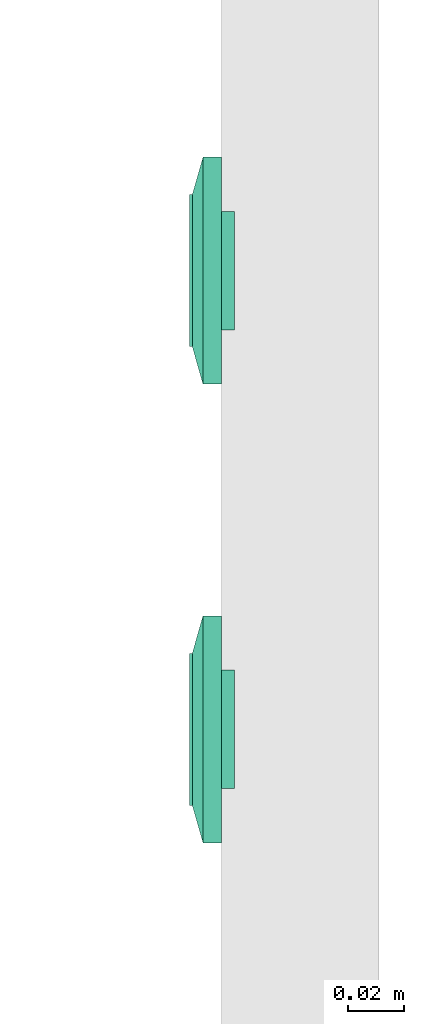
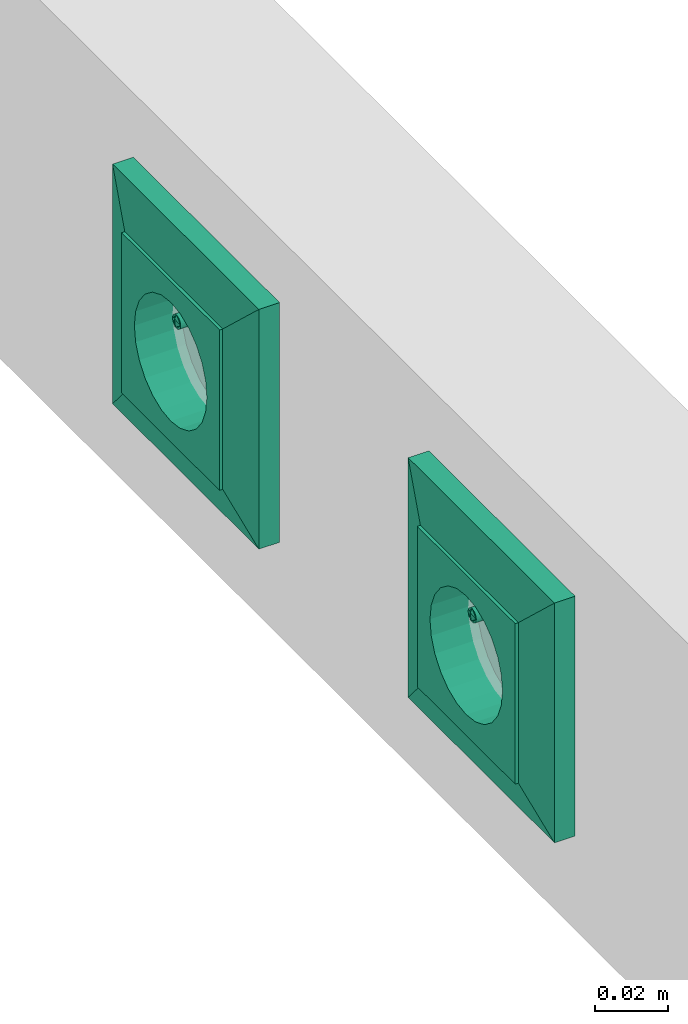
# One storey, part 65 of 166: 2 flow terminals.
"""IFC2X3 building model written with IfcOpenShell, lengths in metres."""

from ifc_helpers import new_model, entity, si_unit, converted_unit, derived_unit, direction, frame, origin, place, context, subcontext, project, spatial, face_set, surface_model, source, transform, mapped, type_object, type_shapes, element, save


model = new_model("IFC2X3")

# Units and contexts
model_context = context("Model", 3, precision=1e-05, world=origin(), true_north=direction((6.12303176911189e-17, 1.0)))
body_context = subcontext(model_context, "Body", "Model", "MODEL_VIEW")
ifc_project = project(units=[si_unit("LENGTHUNIT", "METRE"), si_unit("AREAUNIT", "SQUARE_METRE"), si_unit("VOLUMEUNIT", "CUBIC_METRE"), converted_unit("PLANEANGLEUNIT", "DEGREE", entity("IfcRatioMeasure", 0.0174532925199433), si_unit("PLANEANGLEUNIT", "RADIAN"), dimensions=[0, 0, 0, 0, 0, 0, 0]), si_unit("MASSUNIT", "GRAM", prefix="KILO"), derived_unit("MASSDENSITYUNIT", [(si_unit("MASSUNIT", "GRAM", prefix="KILO"), 1), (si_unit("LENGTHUNIT", "METRE"), -3)]), si_unit("TIMEUNIT", "SECOND"), si_unit("FREQUENCYUNIT", "HERTZ"), si_unit("THERMODYNAMICTEMPERATUREUNIT", "DEGREE_CELSIUS"), derived_unit("THERMALTRANSMITTANCEUNIT", [(si_unit("MASSUNIT", "GRAM", prefix="KILO"), 1), (si_unit("THERMODYNAMICTEMPERATUREUNIT", "KELVIN"), -1), (si_unit("TIMEUNIT", "SECOND"), -3)]), derived_unit("VOLUMETRICFLOWRATEUNIT", [(si_unit("LENGTHUNIT", "METRE"), 3), (si_unit("TIMEUNIT", "SECOND"), -1)]), si_unit("ELECTRICCURRENTUNIT", "AMPERE"), si_unit("ELECTRICVOLTAGEUNIT", "VOLT"), si_unit("POWERUNIT", "WATT"), si_unit("FORCEUNIT", "NEWTON"), si_unit("ILLUMINANCEUNIT", "LUX"), si_unit("LUMINOUSFLUXUNIT", "LUMEN"), si_unit("LUMINOUSINTENSITYUNIT", "CANDELA"), derived_unit("USERDEFINED", [(si_unit("MASSUNIT", "GRAM", prefix="KILO"), -1), (si_unit("LENGTHUNIT", "METRE"), -2), (si_unit("TIMEUNIT", "SECOND"), 3), (si_unit("LUMINOUSFLUXUNIT", "LUMEN"), 1)]), derived_unit("LINEARVELOCITYUNIT", [(si_unit("LENGTHUNIT", "METRE"), 1), (si_unit("TIMEUNIT", "SECOND"), -1)]), si_unit("PRESSUREUNIT", "PASCAL"), derived_unit("USERDEFINED", [(si_unit("LENGTHUNIT", "METRE"), -2), (si_unit("MASSUNIT", "GRAM", prefix="KILO"), 1), (si_unit("TIMEUNIT", "SECOND"), -2)])], contexts=[model_context])

# Site, building, storey
site_placement = place(None, origin())
site = spatial("IfcSite", under=ifc_project, at=site_placement, Name="Default", CompositionType="ELEMENT")
building_placement = place(site_placement, origin())
building = spatial("IfcBuilding", under=site, at=building_placement, CompositionType="ELEMENT")
storey_placement = place(building_placement, frame((0.0, 0.0, 4.27)))
storey = spatial("IfcBuildingStorey", under=building, at=storey_placement, Name="01", CompositionType="ELEMENT", Elevation=4.27)

# Flow terminals
light_fixture_type = type_object("IfcLightFixtureType", Name="IP20 ONDULEE", PredefinedType="NOTDEFINED")
shared_shape = source(origin(), body_context, "Body", "SurfaceModel", [
    surface_model("IfcFaceBasedSurfaceModel", [(-0.00225000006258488, 0.0127499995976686, 0.00949633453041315), (0.0, 0.0104999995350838, 0.00949633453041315), (0.0, 0.0115376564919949, 0.0101656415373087), (0.0, 0.0139623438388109, 0.0101656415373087), (0.0, 0.0144589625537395, 0.00984531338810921), (0.0, 0.0121178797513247, 0.0102778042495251), (0.0, 0.0133821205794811, 0.0102778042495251), (0.0, 0.0127499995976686, 0.010399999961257), (0.0, 0.0149999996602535, 0.00949633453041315), (0.00225000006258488, 0.0127499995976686, 0.00949633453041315), (0.0, 0.0110410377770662, 0.00984531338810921), (0.0, 0.0127499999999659, 0.00949633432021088), (0.00225000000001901, 0.0127499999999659, 0.00949633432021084), (0.00217333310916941, 0.0121676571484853, 0.00949633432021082), (0.00194855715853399, 0.0116249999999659, 0.00949633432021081), (0.00159099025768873, 0.0111590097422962, 0.00949633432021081), (0.001125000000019, 0.010801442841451, 0.00949633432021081), (0.00058234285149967, 0.0105766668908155, 0.00949633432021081), (0.0, 0.0104999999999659, 0.00949633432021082), (-0.000582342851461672, 0.0105766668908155, 0.00949633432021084), (-0.001124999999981, 0.010801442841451, 0.00949633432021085), (-0.00159099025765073, 0.0111590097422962, 0.00949633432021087), (-0.00194855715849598, 0.011624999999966, 0.00949633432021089), (-0.0021733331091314, 0.0121676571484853, 0.00949633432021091), (-0.00224999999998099, 0.012749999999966, 0.00949633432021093), (-0.00217333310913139, 0.0133323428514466, 0.00949633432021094), (-0.00194855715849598, 0.013874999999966, 0.00949633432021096), (-0.00159099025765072, 0.0143409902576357, 0.00949633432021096), (-0.00112499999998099, 0.0146985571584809, 0.00949633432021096), (-0.00058234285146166, 0.0149233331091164, 0.00949633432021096), (0.0, 0.0149999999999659, 0.00949633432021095), (0.000582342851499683, 0.0149233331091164, 0.00949633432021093), (0.00112500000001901, 0.0146985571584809, 0.00949633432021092), (0.00159099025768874, 0.0143409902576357, 0.00949633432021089), (0.001948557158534, 0.0138749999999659, 0.00949633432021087), (0.00217333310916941, 0.0133323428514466, 0.00949633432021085), (0.00225000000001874, 0.0127499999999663, -0.00360000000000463), (0.00217333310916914, 0.0121676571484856, -0.00360000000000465), (0.00194855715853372, 0.0116249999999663, -0.00360000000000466), (0.00159099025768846, 0.0111590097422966, -0.00360000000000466), (0.00112500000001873, 0.0108014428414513, -0.00360000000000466), (0.000582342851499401, 0.0105766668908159, -0.00360000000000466), (0.0, 0.0104999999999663, -0.00360000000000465), (-0.000582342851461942, 0.0105766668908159, -0.00360000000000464), (-0.00112499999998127, 0.0108014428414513, -0.00360000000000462), (-0.001590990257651, 0.0111590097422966, -0.0036000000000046), (-0.00194855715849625, 0.0116249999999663, -0.00360000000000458), (-0.00217333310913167, 0.0121676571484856, -0.00360000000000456), (-0.00224999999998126, 0.0127499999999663, -0.00360000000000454), (-0.00217333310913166, 0.013332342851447, -0.00360000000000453), (-0.00194855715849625, 0.0138749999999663, -0.00360000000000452), (-0.00159099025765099, 0.014340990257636, -0.00360000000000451), (-0.00112499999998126, 0.0146985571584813, -0.00360000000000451), (-0.000582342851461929, 0.0149233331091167, -0.00360000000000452), (0.0, 0.0149999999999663, -0.00360000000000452), (0.000582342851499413, 0.0149233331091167, -0.00360000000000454), (0.00112500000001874, 0.0146985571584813, -0.00360000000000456), (0.00159099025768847, 0.014340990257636, -0.00360000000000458), (0.00194855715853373, 0.0138749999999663, -0.0036000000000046), (0.00217333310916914, 0.013332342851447, -0.00360000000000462), (0.0270000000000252, 0.026999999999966, 0.0113999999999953), (-0.0269999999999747, 0.026999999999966, 0.0113999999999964), (-0.0269999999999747, -0.0270000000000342, 0.0113999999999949), (0.0270000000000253, -0.0270000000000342, 0.0113999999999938), (-0.0199999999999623, 0.0, 0.0113999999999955), (-0.0193185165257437, -0.00517638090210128, 0.0113999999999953), (-0.0173205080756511, -0.0100000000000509, 0.0113999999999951), (-0.0141421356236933, -0.0141421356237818, 0.011399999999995), (-0.00999999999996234, -0.0173205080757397, 0.0113999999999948), (-0.00517638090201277, -0.0193185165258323, 0.0113999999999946), (0.0, -0.0200000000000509, 0.0113999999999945), (0.00517638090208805, -0.0193185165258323, 0.0113999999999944), (0.0100000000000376, -0.0173205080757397, 0.0113999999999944), (0.0141421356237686, -0.0141421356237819, 0.0113999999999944), (0.0173205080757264, -0.010000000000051, 0.0113999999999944), (0.0193185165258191, -0.00517638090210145, 0.0113999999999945), (0.0200000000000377, 0.0, 0.0113999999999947), (0.0193185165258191, 0.00517638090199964, 0.0113999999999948), (0.0173205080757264, 0.0099999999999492, 0.011399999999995), (0.0141421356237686, 0.0141421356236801, 0.0113999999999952), (0.0100000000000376, 0.0173205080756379, 0.0113999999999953), (0.00517638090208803, 0.0193185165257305, 0.0113999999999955), (0.0, 0.0199999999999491, 0.0113999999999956), (-0.00517638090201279, 0.0193185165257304, 0.0113999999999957), (-0.00999999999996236, 0.0173205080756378, 0.0113999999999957), (-0.0141421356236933, 0.01414213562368, 0.0113999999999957), (-0.0173205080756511, 0.00999999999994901, 0.0113999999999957), (-0.0193185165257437, 0.00517638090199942, 0.0113999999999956), (0.0270000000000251, 0.0269999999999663, 0.00199999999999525), (0.0270000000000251, -0.0270000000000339, 0.00199999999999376), (-0.0269999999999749, -0.0270000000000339, 0.00199999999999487), (-0.0269999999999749, 0.0269999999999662, 0.00199999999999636), (0.0210000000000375, 0.0, 0.00199999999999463), (0.0202844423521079, -0.00543519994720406, 0.00199999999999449), (0.0181865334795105, -0.0105000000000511, 0.0019999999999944), (0.0148492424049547, -0.0148492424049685, 0.00199999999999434), (0.0105000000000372, -0.0181865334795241, 0.00199999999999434), (0.0054351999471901, -0.0202844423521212, 0.00199999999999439), (0.0, -0.0210000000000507, 0.00199999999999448), (-0.00543519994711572, -0.020284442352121, 0.00199999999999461), (-0.0104999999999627, -0.0181865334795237, 0.00199999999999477), (-0.0148492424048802, -0.014849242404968, 0.00199999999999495), (-0.0181865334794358, -0.0105000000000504, 0.00199999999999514), (-0.020284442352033, -0.00543519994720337, 0.00199999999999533), (-0.0209999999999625, 0.0, 0.00199999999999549), (-0.0202844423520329, 0.0054351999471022, 0.00199999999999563), (-0.0181865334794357, 0.0104999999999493, 0.00199999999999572), (-0.01484924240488, 0.0148492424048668, 0.00199999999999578), (-0.0104999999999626, 0.0181865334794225, 0.00199999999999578), (-0.00543519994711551, 0.0202844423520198, 0.00199999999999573), (0.0, 0.0209999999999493, 0.00199999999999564), (0.00543519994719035, 0.0202844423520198, 0.00199999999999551), (0.0105000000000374, 0.0181865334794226, 0.00199999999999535), (0.0148492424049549, 0.0148492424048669, 0.00199999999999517), (0.0181865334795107, 0.0104999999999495, 0.00199999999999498), (0.0202844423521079, 0.00543519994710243, 0.00199999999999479), (0.0200000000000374, 0.0, -0.00360000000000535), (0.0193185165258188, -0.00517638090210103, -0.00360000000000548), (0.0173205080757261, -0.0100000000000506, -0.00360000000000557), (0.0141421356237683, -0.0141421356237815, -0.00360000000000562), (0.0100000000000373, -0.0173205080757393, -0.00360000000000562), (0.00517638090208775, -0.0193185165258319, -0.00360000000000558), (0.0, -0.0200000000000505, -0.00360000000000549), (-0.00517638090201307, -0.0193185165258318, -0.00360000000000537), (-0.00999999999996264, -0.0173205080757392, -0.00360000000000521), (-0.0141421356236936, -0.0141421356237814, -0.00360000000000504), (-0.0173205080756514, -0.0100000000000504, -0.00360000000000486), (-0.019318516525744, -0.00517638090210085, -0.00360000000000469), (-0.0199999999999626, 0.0, -0.00360000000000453), (-0.0193185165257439, 0.00517638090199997, -0.0036000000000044), (-0.0173205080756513, 0.00999999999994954, -0.00360000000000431), (-0.0141421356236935, 0.0141421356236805, -0.00360000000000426), (-0.00999999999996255, 0.0173205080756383, -0.00360000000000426), (-0.00517638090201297, 0.0193185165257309, -0.0036000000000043), (0.0, 0.0199999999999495, -0.00360000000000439), (0.00517638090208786, 0.0193185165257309, -0.00360000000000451), (0.0100000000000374, 0.0173205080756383, -0.00360000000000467), (0.0141421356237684, 0.0141421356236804, -0.00360000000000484), (0.0173205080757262, 0.0099999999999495, -0.00360000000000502), (0.0193185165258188, 0.00517638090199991, -0.00360000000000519), (-0.0123499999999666, 0.0, -0.00360000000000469), (-0.0122562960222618, -0.000711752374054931, -0.00360000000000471), (-0.0119815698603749, -0.00137500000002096, -0.00360000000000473), (-0.0115445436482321, -0.00194454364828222, -0.00360000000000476), (-0.0109749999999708, -0.00238156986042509, -0.00360000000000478), (-0.0103117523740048, -0.00265629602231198, -0.0036000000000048), (-0.00959999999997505, -0.00275000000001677, -0.00360000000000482), (-0.0088882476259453, -0.00265629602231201, -0.00360000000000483), (-0.00822499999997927, -0.00238156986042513, -0.00360000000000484), (-0.00765545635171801, -0.00194454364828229, -0.00360000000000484), (-0.00721843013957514, -0.00137500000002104, -0.00360000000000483), (-0.00694370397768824, -0.000711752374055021, -0.00360000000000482), (-0.00684999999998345, 0.0, -0.0036000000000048), (-0.00694370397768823, 0.000711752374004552, -0.00360000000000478), (-0.00721843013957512, 0.00137499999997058, -0.00360000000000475), (-0.00765545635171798, 0.00194454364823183, -0.00360000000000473), (-0.00822499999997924, 0.00238156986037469, -0.0036000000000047), (-0.00888824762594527, 0.00265629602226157, -0.00360000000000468), (-0.00959999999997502, 0.00274999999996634, -0.00360000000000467), (-0.0103117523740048, 0.00265629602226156, -0.00360000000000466), (-0.0109749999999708, 0.00238156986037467, -0.00360000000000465), (-0.011544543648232, 0.00194454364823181, -0.00360000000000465), (-0.0119815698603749, 0.00137499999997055, -0.00360000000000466), (-0.0122562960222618, 0.000711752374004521, -0.00360000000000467), (0.00685000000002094, 0.0, -0.00360000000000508), (0.0069437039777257, -0.00071175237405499, -0.0036000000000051), (0.00721843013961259, -0.00137500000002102, -0.00360000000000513), (0.00765545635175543, -0.00194454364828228, -0.00360000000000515), (0.00822500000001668, -0.00238156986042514, -0.00360000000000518), (0.00888824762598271, -0.00265629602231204, -0.0036000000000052), (0.00960000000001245, -0.00275000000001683, -0.00360000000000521), (0.0103117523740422, -0.00265629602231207, -0.00360000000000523), (0.0109750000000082, -0.00238156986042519, -0.00360000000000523), (0.0115445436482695, -0.00194454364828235, -0.00360000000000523), (0.0119815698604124, -0.0013750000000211, -0.00360000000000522), (0.0122562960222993, -0.00071175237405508, -0.00360000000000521), (0.012350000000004, 0.0, -0.00360000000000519), (0.0122562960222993, 0.000711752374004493, -0.00360000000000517), (0.0119815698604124, 0.00137499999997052, -0.00360000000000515), (0.0115445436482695, 0.00194454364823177, -0.00360000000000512), (0.0109750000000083, 0.00238156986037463, -0.0036000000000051), (0.0103117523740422, 0.00265629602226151, -0.00360000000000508), (0.00960000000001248, 0.00274999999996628, -0.00360000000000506), (0.00888824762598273, 0.0026562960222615, -0.00360000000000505), (0.0082250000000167, 0.00238156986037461, -0.00360000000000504), (0.00765545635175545, 0.00194454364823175, -0.00360000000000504), (0.0072184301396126, 0.00137499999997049, -0.00360000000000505), (0.00694370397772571, 0.000711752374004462, -0.00360000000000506), (0.0210000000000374, 0.0, -0.00460000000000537), (0.0202844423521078, -0.00543519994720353, -0.00460000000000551), (0.0181865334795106, -0.0105000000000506, -0.0046000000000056), (0.0148492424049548, -0.0148492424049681, -0.00460000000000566), (0.0105000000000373, -0.0181865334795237, -0.00460000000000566), (0.00543519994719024, -0.0202844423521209, -0.00460000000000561), (0.0, -0.0210000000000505, -0.00460000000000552), (-0.00543519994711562, -0.0202844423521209, -0.00460000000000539), (-0.0104999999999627, -0.0181865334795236, -0.00460000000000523), (-0.0148492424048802, -0.0148492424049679, -0.00460000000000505), (-0.0181865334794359, -0.0105000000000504, -0.00460000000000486), (-0.0202844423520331, -0.00543519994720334, -0.00460000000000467), (-0.0209999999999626, 0.0, -0.00460000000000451), (-0.020284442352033, 0.00543519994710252, -0.00460000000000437), (-0.0181865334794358, 0.0104999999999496, -0.00460000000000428), (-0.0148492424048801, 0.0148492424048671, -0.00460000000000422), (-0.0104999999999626, 0.0181865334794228, -0.00460000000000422), (-0.00543519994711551, 0.02028444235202, -0.00460000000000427), (0.0, 0.0209999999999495, -0.00460000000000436), (0.00543519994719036, 0.02028444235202, -0.00460000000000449), (0.0105000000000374, 0.0181865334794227, -0.00460000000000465), (0.0148492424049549, 0.014849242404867, -0.00460000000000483), (0.0181865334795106, 0.0104999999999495, -0.00460000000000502), (0.0202844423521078, 0.00543519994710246, -0.00460000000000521), (-0.00684999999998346, 0.0, -0.0046000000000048), (-0.00694370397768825, 0.000711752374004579, -0.00460000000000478), (-0.00721843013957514, 0.00137499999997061, -0.00460000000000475), (-0.007655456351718, 0.00194454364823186, -0.00460000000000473), (-0.00822499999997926, 0.00238156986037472, -0.0046000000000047), (-0.00888824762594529, 0.0026562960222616, -0.00460000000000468), (-0.00959999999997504, 0.00274999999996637, -0.00460000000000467), (-0.0103117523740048, 0.00265629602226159, -0.00460000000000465), (-0.0109749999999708, 0.0023815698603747, -0.00460000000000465), (-0.0115445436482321, 0.00194454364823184, -0.00460000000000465), (-0.0119815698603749, 0.00137499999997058, -0.00460000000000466), (-0.0122562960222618, 0.000711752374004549, -0.00460000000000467), (-0.0123499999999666, 0.0, -0.00460000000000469), (-0.0122562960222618, -0.000711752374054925, -0.00460000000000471), (-0.0119815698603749, -0.00137500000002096, -0.00460000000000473), (-0.0115445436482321, -0.00194454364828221, -0.00460000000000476), (-0.0109749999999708, -0.00238156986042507, -0.00460000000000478), (-0.0103117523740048, -0.00265629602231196, -0.0046000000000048), (-0.00959999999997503, -0.00275000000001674, -0.00460000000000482), (-0.00888824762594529, -0.00265629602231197, -0.00460000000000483), (-0.00822499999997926, -0.00238156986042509, -0.00460000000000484), (-0.007655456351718, -0.00194454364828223, -0.00460000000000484), (-0.00721843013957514, -0.00137500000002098, -0.00460000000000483), (-0.00694370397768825, -0.000711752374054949, -0.00460000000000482), (0.012350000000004, 0.0, -0.00460000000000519), (0.0122562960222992, 0.000711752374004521, -0.00460000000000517), (0.0119815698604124, 0.00137499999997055, -0.00460000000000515), (0.0115445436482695, 0.0019445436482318, -0.00460000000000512), (0.0109750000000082, 0.00238156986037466, -0.0046000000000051), (0.0103117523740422, 0.00265629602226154, -0.00460000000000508), (0.00960000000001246, 0.00274999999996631, -0.00460000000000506), (0.00888824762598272, 0.00265629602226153, -0.00460000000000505), (0.00822500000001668, 0.00238156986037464, -0.00460000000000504), (0.00765545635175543, 0.00194454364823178, -0.00460000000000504), (0.00721843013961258, 0.00137499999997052, -0.00460000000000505), (0.00694370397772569, 0.00071175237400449, -0.00460000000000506), (0.00685000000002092, 0.0, -0.00460000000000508), (0.00694370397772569, -0.000711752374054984, -0.0046000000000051), (0.00721843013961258, -0.00137500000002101, -0.00460000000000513), (0.00765545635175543, -0.00194454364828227, -0.00460000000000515), (0.00822500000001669, -0.00238156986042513, -0.00460000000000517), (0.00888824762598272, -0.00265629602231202, -0.0046000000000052), (0.00960000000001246, -0.0027500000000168, -0.00460000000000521), (0.0103117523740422, -0.00265629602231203, -0.00460000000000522), (0.0109750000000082, -0.00238156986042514, -0.00460000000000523), (0.0115445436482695, -0.00194454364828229, -0.00460000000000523), (0.0119815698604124, -0.00137500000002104, -0.00460000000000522), (0.0122562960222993, -0.000711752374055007, -0.00460000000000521), (0.040350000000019, 0.0403499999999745, 0.00659999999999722), (0.040350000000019, -0.0403500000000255, 0.00659999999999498), (-0.0403499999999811, -0.0403500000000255, 0.00659999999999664), (-0.0403499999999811, 0.0403499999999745, 0.00659999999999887), (0.027000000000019, 0.0269999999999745, 0.00659999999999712), (-0.0269999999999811, 0.0269999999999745, 0.00659999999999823), (-0.026999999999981, -0.0270000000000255, 0.00659999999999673), (0.027000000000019, -0.0270000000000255, 0.00659999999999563), (0.027000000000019, 0.0269999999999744, 0.0103999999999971), (-0.026999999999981, 0.0269999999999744, 0.0103999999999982), (-0.026999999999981, -0.0270000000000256, 0.0103999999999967), (0.027000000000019, -0.0270000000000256, 0.0103999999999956), (0.040350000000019, 0.0403499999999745, 0.00659999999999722), (0.040350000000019, -0.0403500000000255, 0.00659999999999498), (-0.0403499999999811, -0.0403500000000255, 0.00659999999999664), (-0.0403499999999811, 0.0403499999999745, 0.00659999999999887), (-0.0269999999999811, 0.0269999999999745, 0.00659999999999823), (-0.0269999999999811, -0.0270000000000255, 0.00659999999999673), (0.0270000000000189, -0.0270000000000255, 0.00659999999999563), (0.0270000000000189, 0.0269999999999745, 0.00659999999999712), (0.0403500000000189, 0.0403499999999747, 0.0), (0.0403500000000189, -0.0403500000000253, 0.0), (-0.0403499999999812, -0.0403500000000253, 0.0), (-0.0403499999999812, 0.0403499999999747, 0.0), (0.0270000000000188, 0.0269999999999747, 0.0), (-0.0269999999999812, 0.0269999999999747, 0.0), (-0.0269999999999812, -0.0270000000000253, 0.0), (0.0270000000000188, -0.0270000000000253, 0.0)], [face_set([[[0, 1, 2]], [[3, 4, 2, 5]], [[6, 3, 5, 7]], [[2, 4, 0]], [[4, 8, 0]], [[3, 9, 8]], [[1, 9, 10]], [[2, 3, 6, 7]], [[3, 10, 9]], [[2, 10, 3]], [[11, 1, 0, 8]], [[11, 8, 9, 1]]]), face_set([[[12, 13, 14, 15, 16, 17, 18, 19, 20, 21, 22, 23, 24, 25, 26, 27, 28, 29, 30, 31, 32, 33, 34, 35]], [[36, 37, 38, 39, 40, 41, 42, 43, 44, 45, 46, 47, 48, 49, 50, 51, 52, 53, 54, 55, 56, 57, 58, 59]], [[48, 47, 23, 24]], [[47, 46, 22, 23]], [[45, 44, 20, 21]], [[46, 45, 21, 22]], [[44, 43, 19, 20]], [[18, 19, 43, 42]], [[42, 41, 17, 18]], [[41, 40, 16, 17]], [[39, 38, 14, 15]], [[40, 39, 15, 16]], [[38, 37, 13, 14]], [[12, 13, 37, 36]], [[36, 59, 35, 12]], [[59, 58, 34, 35]], [[57, 56, 32, 33]], [[58, 57, 33, 34]], [[56, 55, 31, 32]], [[30, 31, 55, 54]], [[54, 53, 29, 30]], [[53, 52, 28, 29]], [[51, 50, 26, 27]], [[52, 51, 27, 28]], [[50, 49, 25, 26]], [[24, 25, 49, 48]]]), face_set([[[60, 61, 62, 63], [64, 65, 66, 67, 68, 69, 70, 71, 72, 73, 74, 75, 76, 77, 78, 79, 80, 81, 82, 83, 84, 85, 86, 87]], [[88, 89, 90, 91], [92, 93, 94, 95, 96, 97, 98, 99, 100, 101, 102, 103, 104, 105, 106, 107, 108, 109, 110, 111, 112, 113, 114, 115]], [[61, 60, 88, 91]], [[62, 61, 91, 90]], [[63, 62, 90, 89]], [[60, 63, 89, 88]], [[116, 117, 118, 119, 120, 121, 122, 123, 124, 125, 126, 127, 128, 129, 130, 131, 132, 133, 134, 135, 136, 137, 138, 139], [140, 141, 142, 143, 144, 145, 146, 147, 148, 149, 150, 151, 152, 153, 154, 155, 156, 157, 158, 159, 160, 161, 162, 163], [164, 165, 166, 167, 168, 169, 170, 171, 172, 173, 174, 175, 176, 177, 178, 179, 180, 181, 182, 183, 184, 185, 186, 187]], [[64, 128, 127, 65]], [[65, 127, 126, 66]], [[67, 125, 124, 68]], [[66, 126, 125, 67]], [[68, 124, 123, 69]], [[122, 70, 69, 123]], [[70, 122, 121, 71]], [[71, 121, 120, 72]], [[73, 119, 118, 74]], [[72, 120, 119, 73]], [[74, 118, 117, 75]], [[116, 76, 75, 117]], [[76, 116, 139, 77]], [[77, 139, 138, 78]], [[79, 137, 136, 80]], [[78, 138, 137, 79]], [[80, 136, 135, 81]], [[134, 82, 81, 135]], [[82, 134, 133, 83]], [[83, 133, 132, 84]], [[84, 132, 131, 85]], [[85, 131, 130, 86]], [[130, 129, 87, 86]], [[64, 87, 129, 128]], [[188, 189, 190, 191, 192, 193, 194, 195, 196, 197, 198, 199, 200, 201, 202, 203, 204, 205, 206, 207, 208, 209, 210, 211], [212, 213, 214, 215, 216, 217, 218, 219, 220, 221, 222, 223, 224, 225, 226, 227, 228, 229, 230, 231, 232, 233, 234, 235], [236, 237, 238, 239, 240, 241, 242, 243, 244, 245, 246, 247, 248, 249, 250, 251, 252, 253, 254, 255, 256, 257, 258, 259]], [[200, 199, 103, 104]], [[199, 198, 102, 103]], [[197, 196, 100, 101]], [[198, 197, 101, 102]], [[196, 195, 99, 100]], [[98, 99, 195, 194]], [[194, 193, 97, 98]], [[193, 192, 96, 97]], [[191, 190, 94, 95]], [[192, 191, 95, 96]], [[190, 189, 93, 94]], [[92, 93, 189, 188]], [[188, 211, 115, 92]], [[211, 210, 114, 115]], [[209, 208, 112, 113]], [[210, 209, 113, 114]], [[208, 207, 111, 112]], [[110, 111, 207, 206]], [[206, 205, 109, 110]], [[205, 204, 108, 109]], [[203, 202, 106, 107]], [[204, 203, 107, 108]], [[202, 201, 105, 106]], [[104, 105, 201, 200]], [[141, 225, 226, 142]], [[140, 224, 225, 141]], [[144, 228, 229, 145]], [[143, 227, 228, 144]], [[142, 226, 227, 143]], [[230, 146, 145, 229]], [[149, 233, 232, 148]], [[148, 232, 231, 147]], [[152, 212, 235, 151]], [[151, 235, 234, 150]], [[150, 234, 233, 149]], [[146, 230, 231, 147]], [[154, 214, 213, 153]], [[153, 213, 212, 152]], [[157, 217, 216, 156]], [[156, 216, 215, 155]], [[155, 215, 214, 154]], [[218, 158, 157, 217]], [[160, 220, 221, 161]], [[159, 219, 220, 160]], [[163, 223, 224, 140]], [[162, 222, 223, 163]], [[161, 221, 222, 162]], [[158, 218, 219, 159]], [[166, 250, 249, 165]], [[165, 249, 248, 164]], [[169, 253, 252, 168]], [[168, 252, 251, 167]], [[167, 251, 250, 166]], [[254, 170, 169, 253]], [[172, 256, 257, 173]], [[171, 255, 256, 172]], [[175, 259, 236, 176]], [[174, 258, 259, 175]], [[173, 257, 258, 174]], [[170, 254, 255, 171]], [[177, 237, 238, 178]], [[176, 236, 237, 177]], [[180, 240, 241, 181]], [[179, 239, 240, 180]], [[178, 238, 239, 179]], [[242, 182, 181, 241]], [[185, 245, 244, 184]], [[184, 244, 243, 183]], [[164, 248, 247, 187]], [[187, 247, 246, 186]], [[186, 246, 245, 185]], [[182, 242, 243, 183]]]), face_set([[[260, 261, 262, 263], [264, 265, 266, 267]], [[260, 268, 269, 263]], [[263, 269, 270, 262]], [[262, 270, 271, 261]], [[261, 271, 268, 260]], [[264, 265, 269, 268]], [[265, 266, 270, 269]], [[266, 267, 271, 270]], [[268, 271, 267, 264]]]), face_set([[[272, 273, 274, 275], [276, 277, 278, 279]], [[280, 281, 282, 283], [284, 285, 286, 287]], [[275, 272, 280, 283]], [[274, 275, 283, 282]], [[273, 274, 282, 281]], [[272, 273, 281, 280]], [[284, 285, 276, 279]], [[285, 286, 277, 276]], [[286, 287, 278, 277]], [[279, 278, 287, 284]]])]),
])
type_shapes(light_fixture_type, [shared_shape])
for number, where, z_axis, x_axis in (
    (1, (29.3537440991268, -186.03610839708, 4.70800000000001), (-1.0, 0.0, 0.0), (0.0, -1.0, 0.0)),
    (2, (29.3537440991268, -186.19910839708, 4.70800000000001), (-1.0, 0.0, 0.0), (0.0, -1.0, 0.0)),
):
    element("IfcFlowTerminal", number, at=place(building_placement, frame(where, z_axis=z_axis, x_axis=x_axis)), inside=storey, type_object=light_fixture_type, Name="INT Prise de courant:IP20 ONDULEE", ObjectType="INT Prise de courant:IP20 ONDULEE", context=body_context, shape_type="MappedRepresentation", body=[
        mapped(shared_shape, transform((0.0, 0.0, 0.0), scale=1.0)),
    ])

save(model, "model.ifc")
